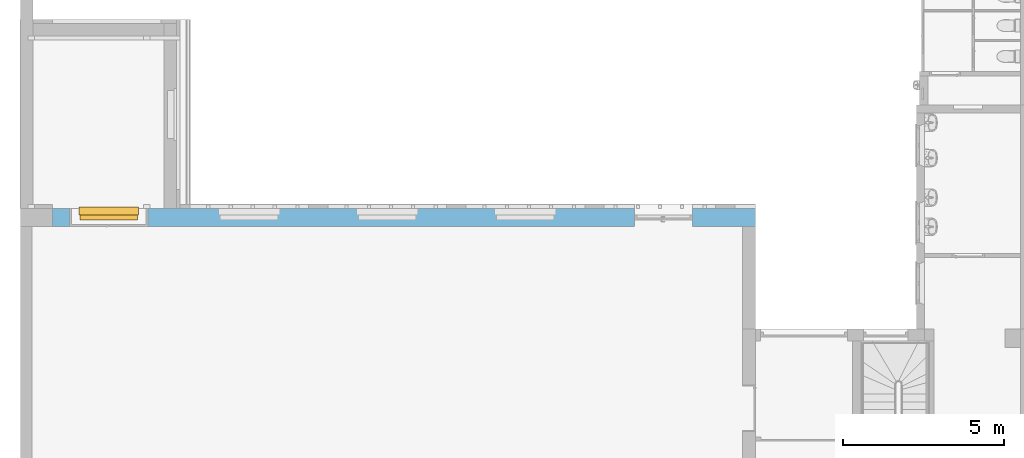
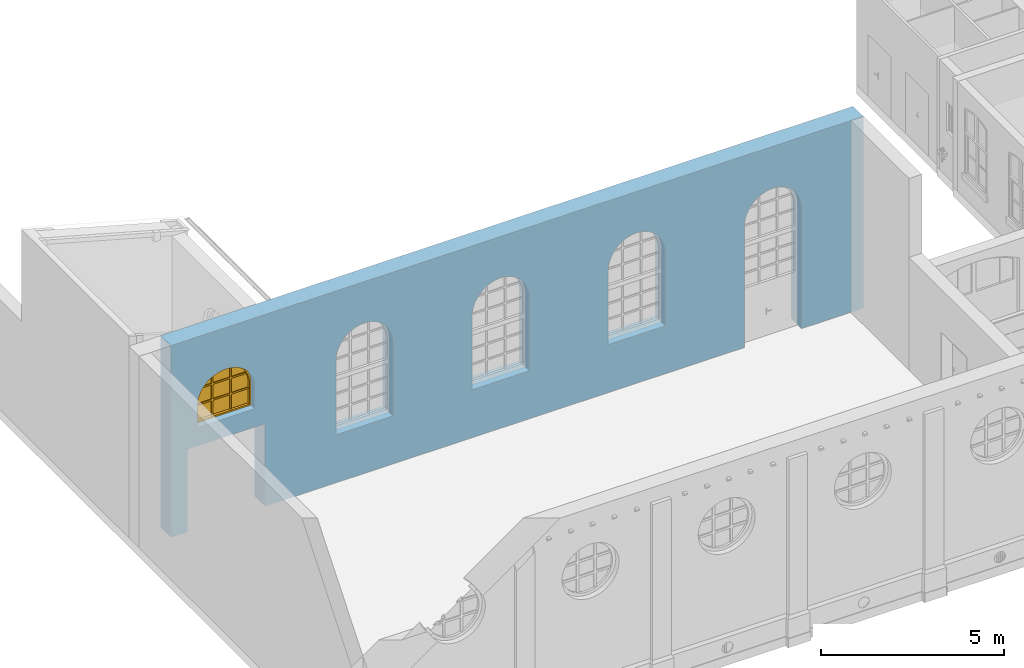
"""IFC4 building model written with IfcOpenShell, lengths in metres."""

from ifc_helpers import new_model, entity, si_unit, converted_unit, derived_unit, frame, frame_2d, origin, origin_with_axes, place, context, subcontext, project, spatial, polyline, rectangle, outline, extrude, closed_shell, open_shell, surface_model, source, transform, mapped, material, layer, layer_set, layer_usage, element, fill, save


model = new_model("IFC4")

# Units and contexts
model_context = context("Model", 3, precision=1e-05, world=origin())
body_context = subcontext(model_context, "Body", "Model", "MODEL_VIEW")
ifc_project = project(units=[si_unit("LENGTHUNIT", "METRE"), si_unit("AREAUNIT", "SQUARE_METRE"), si_unit("VOLUMEUNIT", "CUBIC_METRE"), si_unit("MASSUNIT", "GRAM", prefix="KILO"), converted_unit("PLANEANGLEUNIT", "DEGREE", entity("IfcPlaneAngleMeasure", 0.0174532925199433), si_unit("PLANEANGLEUNIT", "RADIAN"), dimensions=[0, 0, 0, 0, 0, 0, 0]), derived_unit("THERMALTRANSMITTANCEUNIT", [(si_unit("POWERUNIT", "WATT"), 1), (si_unit("THERMODYNAMICTEMPERATUREUNIT", "KELVIN"), -1), (si_unit("LENGTHUNIT", "METRE"), -2)]), derived_unit("VOLUMETRICFLOWRATEUNIT", [(si_unit("LENGTHUNIT", "METRE"), 3), (converted_unit("TIMEUNIT", "hour", entity("IfcTimeMeasure", 3600.0), si_unit("TIMEUNIT", "SECOND"), dimensions=[0, 0, 1, 0, 0, 0, 0]), -1), (si_unit("LENGTHUNIT", "METRE"), -1)])], contexts=[model_context])

# Building, storeys
building_placement = place(None, origin())
building = spatial("IfcBuilding", under=ifc_project, at=building_placement, Name="Bestandsgebäude A - Sporthalle / Wohnhaus (TB 100-499)   ANPASSEN !!!", CompositionType="ELEMENT")
storey_1_placement = place(building_placement, origin())
storey_1 = spatial("IfcBuildingStorey", under=building, at=storey_1_placement, Name="Geb. A Erdgeschoss (TB 200-249)", CompositionType="ELEMENT", Elevation=0.0)
storey_2_placement = place(storey_1_placement, origin())
storey_2 = spatial("IfcBuildingStorey", under=storey_1, at=storey_2_placement, Name="Architektur (TB 200-209)", CompositionType="PARTIAL")

# Wall, openings, window
ifc_material = material(Name="concrete")
ifc_layer = layer(ifc_material, 0.56)
ifc_layer_set = layer_set([ifc_layer])
ifc_layer_usage = layer_usage(ifc_layer_set, "AXIS2", "POSITIVE", 0.0)
wall_placement = place(storey_2_placement, frame((-8.5, 13.0, 0.0), z_axis=(0.0, 0.0, 1.0), x_axis=(-1.0, 1.66345624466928e-16, 0.0)))
wall = element("IfcWall", 1, at=wall_placement, inside=storey_2, material=ifc_layer_usage, Name="reinforced - bearing", PredefinedType="USERDEFINED", context=body_context, shape_type="SweptSolid", body=[
    extrude(rectangle(XDim=21.87, YDim=0.56, at=frame_2d((10.935, 0.28), x_axis=(1.0, 0.0))), origin_with_axes(), (0.0, 0.0, 1.0), 6.4),
])
opening_1_placement = place(wall_placement, frame((1.95999999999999, 0.0, 0.0), z_axis=(0.0, 1.0, 0.0), x_axis=(0.0, 0.0, 1.0)))
element("IfcOpeningElement", 2, at=opening_1_placement, cuts=wall, Name="Door opening", PredefinedType="OPENING", context=body_context, shape_type="SweptSolid", body=[
    extrude(outline(polyline([(4.03999999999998, 1.8), (4.1403473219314, 1.79506970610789), (4.23959521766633, 1.78033284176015), (4.33665630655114, 1.7559508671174), (4.4304671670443, 1.72219091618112), (4.51999998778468, 1.67942287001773), (4.60427382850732, 1.62811530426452), (4.68236536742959, 1.56883035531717), (4.75341901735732, 1.5022175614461), (4.81665629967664, 1.42900674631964), (4.87138437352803, 1.35000002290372), (4.91700362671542, 1.26606300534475), (4.95301424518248, 1.17811532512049), (4.97902168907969, 1.08712055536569), (4.99474101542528, 0.994075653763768), (5.0, 0.900000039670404), (4.99474102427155, 0.805924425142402), (4.9790217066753, 0.71287952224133), (4.95301427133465, 0.621884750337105), (4.91700366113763, 0.533937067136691), (4.87138441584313, 0.450000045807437), (4.81665634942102, 0.370993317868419), (4.75341907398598, 0.297782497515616), (4.68236543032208, 0.231169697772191), (4.60427389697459, 0.171884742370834), (4.52000006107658, 0.120577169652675), (4.43046724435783, 0.0778091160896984), (4.33665638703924, 0.0440491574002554), (4.23959530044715, 0.0196671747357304), (4.14034740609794, 0.00493030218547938), (4.04000008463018, 0.0), (0.0, 0.0), (0.0, 1.8), (4.03999999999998, 1.8)])), origin_with_axes(), (0.0, 0.0, 1.0), 0.56),
])
opening_2_placement = place(wall_placement, frame((6.26357142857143, 0.0, 1.6), z_axis=(0.0, 1.0, 0.0), x_axis=(0.0, 0.0, 1.0)))
element("IfcOpeningElement", 3, at=opening_2_placement, cuts=wall, Name="Window opening", PredefinedType="OPENING", context=body_context, shape_type="SweptSolid", body=[
    extrude(outline(polyline([(2.46000001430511, 1.7964285), (2.56034733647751, 1.79150798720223), (2.65959523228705, 1.77680036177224), (2.75665632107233, 1.75246676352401), (2.8504671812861, 1.71877379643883), (2.94000000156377, 1.67609060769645), (3.02427384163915, 1.62488484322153), (3.10236537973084, 1.56571752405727), (3.17341902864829, 1.49923689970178), (3.23665630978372, 1.42617134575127), (3.29138438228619, 1.34732138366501), (3.33700363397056, 1.2635509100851), (3.37301425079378, 1.17577773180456), (3.39902169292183, 1.08496351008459), (3.41474101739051, 0.992103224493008), (3.42, 0.898214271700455), (3.4147410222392, 0.804325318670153), (3.39902170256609, 0.711465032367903), (3.37301426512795, 0.620650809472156), (3.33700365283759, 0.532877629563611), (3.29138440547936, 0.449107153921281), (3.23665633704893, 0.370257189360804), (3.17341905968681, 0.297191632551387), (3.10236541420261, 0.230711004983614), (3.0242738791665, 0.17154368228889), (2.94000004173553, 0.120337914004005), (2.85046722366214, 0.0776547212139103), (2.75665636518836, 0.0439617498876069), (2.65959527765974, 0.0196281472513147), (2.56034738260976, 0.00492051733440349), (2.46000006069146, 0.0), (0.0, 0.0), (0.0, 1.7964285), (2.46000001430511, 1.7964285)])), origin_with_axes(), (0.0, 0.0, 1.0), 0.56),
])
opening_3_placement = place(wall_placement, frame((10.56, 0.0, 1.6), z_axis=(0.0, 1.0, 0.0), x_axis=(0.0, 0.0, 1.0)))
element("IfcOpeningElement", 4, at=opening_3_placement, cuts=wall, Name="Window opening", PredefinedType="OPENING", context=body_context, shape_type="SweptSolid", body=[
    extrude(outline(polyline([(2.46000001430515, 1.7964285), (2.56034733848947, 1.79150798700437), (2.65959523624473, 1.77680036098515), (2.75665632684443, 1.75246676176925), (2.85046718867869, 1.71877379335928), (2.94000001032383, 1.67609060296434), (3.02427385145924, 1.62488483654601), (3.10236539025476, 1.56571751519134), (3.17341903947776, 1.49923688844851), (3.23665632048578, 1.42617133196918), (3.29138439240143, 1.3473213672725), (3.33700364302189, 1.2635508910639), (3.37301425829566, 1.17577771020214), (3.39902169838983, 1.08496348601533), (3.41474102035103, 0.992103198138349), (3.42, 0.898214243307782), (3.41474101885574, 0.804325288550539), (3.39902169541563, 0.711465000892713), (3.37301425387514, 0.620650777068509), (3.33700363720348, 0.532877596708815), (3.29138438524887, 0.449107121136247), (3.23665631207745, 0.370257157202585), (3.17341902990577, 0.297191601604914), (3.10236537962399, 0.230710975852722), (3.02427383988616, 0.171543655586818), (2.93999999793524, 0.120337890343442), (2.85046717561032, 0.077654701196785), (2.75665631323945, 0.0439617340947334), (2.6595952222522, 0.0196281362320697), (2.56034732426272, 0.00492051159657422), (2.46, 0.0), (0.0, 0.0), (0.0, 1.7964285), (2.46000001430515, 1.7964285)])), origin_with_axes(), (0.0, 0.0, 1.0), 0.56),
])
opening_4_placement = place(wall_placement, frame((14.86, 0.0, 1.6), z_axis=(0.0, 1.0, 0.0), x_axis=(0.0, 0.0, 1.0)))
element("IfcOpeningElement", 5, at=opening_4_placement, cuts=wall, Name="Window opening", PredefinedType="OPENING", context=body_context, shape_type="SweptSolid", body=[
    extrude(outline(polyline([(2.46000001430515, 1.7964285), (2.56034733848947, 1.79150798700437), (2.65959523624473, 1.77680036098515), (2.75665632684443, 1.75246676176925), (2.85046718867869, 1.71877379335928), (2.94000001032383, 1.67609060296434), (3.02427385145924, 1.62488483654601), (3.10236539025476, 1.56571751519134), (3.17341903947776, 1.49923688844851), (3.23665632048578, 1.42617133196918), (3.29138439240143, 1.3473213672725), (3.3370036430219, 1.2635508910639), (3.37301425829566, 1.17577771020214), (3.39902169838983, 1.08496348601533), (3.41474102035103, 0.992103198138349), (3.42, 0.898214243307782), (3.41474101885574, 0.804325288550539), (3.39902169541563, 0.711465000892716), (3.37301425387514, 0.620650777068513), (3.33700363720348, 0.532877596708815), (3.29138438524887, 0.449107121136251), (3.23665631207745, 0.370257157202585), (3.17341902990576, 0.297191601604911), (3.10236537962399, 0.230710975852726), (3.02427383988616, 0.171543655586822), (2.93999999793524, 0.120337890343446), (2.85046717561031, 0.077654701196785), (2.75665631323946, 0.0439617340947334), (2.6595952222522, 0.0196281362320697), (2.56034732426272, 0.00492051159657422), (2.46, 0.0), (0.0, 0.0), (0.0, 1.7964285), (2.46000001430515, 1.7964285)])), origin_with_axes(), (0.0, 0.0, 1.0), 0.560000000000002),
])
opening_5_placement = place(wall_placement, frame((19.225, 0.0, 3.37), z_axis=(0.0, 1.0, 0.0), x_axis=(0.0, 0.0, 1.0)))
opening_5 = element("IfcOpeningElement", 6, at=opening_5_placement, cuts=wall, Name="Window opening", PredefinedType="OPENING", context=body_context, shape_type="SweptSolid", body=[
    extrude(outline(polyline([(0.850000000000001, 1.8), (0.936562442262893, 1.78550122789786), (1.02131640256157, 1.762696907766), (1.10346693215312, 1.73180093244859), (1.18224350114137, 1.69310309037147), (1.25690722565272, 1.64696634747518), (1.32675779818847, 1.59382344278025), (1.39114005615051, 1.53417282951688), (1.44945012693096, 1.46857399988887), (1.501141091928, 1.39764223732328), (1.54572811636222, 1.32204284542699), (1.58279299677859, 1.2424849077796), (1.61198808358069, 1.15971463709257), (1.63303954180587, 1.07450837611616), (1.64574991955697, 0.98766531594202), (1.65, 0.9), (1.64574991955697, 0.81233468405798), (1.63303954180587, 0.725491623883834), (1.61198808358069, 0.640285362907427), (1.58279299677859, 0.557515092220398), (1.54572811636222, 0.47795715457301), (1.501141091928, 0.402357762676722), (1.44945012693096, 0.331426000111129), (1.3911400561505, 0.265827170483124), (1.32675779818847, 0.206176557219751), (1.25690722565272, 0.153033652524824), (1.18224350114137, 0.106896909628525), (1.10346693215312, 0.0681990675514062), (1.02131640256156, 0.0373030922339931), (0.936562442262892, 0.0144987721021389), (0.85, 0.0), (0.0, 0.0), (0.0, 1.8), (0.850000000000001, 1.8)])), origin_with_axes(), (0.0, 0.0, 1.0), 0.56),
])
opening_6_placement = place(wall_placement, frame((21.35, 0.56, 0.0), z_axis=(0.0, -1.0, 0.0), x_axis=(0.0, 0.0, 1.0)))
element("IfcOpeningElement", 7, at=opening_6_placement, cuts=wall, Name="Door opening", PredefinedType="OPENING", context=body_context, shape_type="SweptSolid", body=[
    extrude(outline(polyline([(2.76, 2.45), (2.76, 0.0), (0.0, 0.0), (0.0, 2.45), (2.76, 2.45)])), origin_with_axes(), (0.0, 0.0, 1.0), 0.56),
])
shared_shape = source(origin_with_axes(), body_context, "Body", "SurfaceModel", [
    surface_model("IfcShellBasedSurfaceModel", [(1.82, 0.41, -0.15), (1.82, 0.16, -0.15), (1.82, 0.16, 0.05), (1.82, 0.41, 0.05), (-0.02, 0.16, -0.15), (-0.02, 0.41, -0.15), (-0.02, 0.41, 0.05), (-0.02, 0.16, 0.05)], [closed_shell([[[0, 1, 2, 3]], [[4, 5, 6, 7]], [[1, 0, 5, 4]], [[2, 1, 4, 7]], [[3, 2, 7, 6]], [[0, 3, 6, 5]]], orient=[[False], [False], [False], [False], [False], [False]])]),
    surface_model("IfcShellBasedSurfaceModel", [(1.78550122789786, 0.0, 0.936562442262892), (1.8, 0.0, 0.85), (1.8, 0.0, 0.0), (0.0, 0.0, 0.0), (0.0, 0.0, 0.85), (0.0144987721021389, 0.0, 0.936562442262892), (0.0373030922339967, 0.0, 1.02131640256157), (0.0681990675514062, 0.0, 1.10346693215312), (0.106896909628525, 0.0, 1.18224350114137), (0.153033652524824, 0.0, 1.25690722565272), (0.206176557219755, 0.0, 1.32675779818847), (0.26582717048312, 0.0, 1.39114005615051), (0.331426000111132, 0.0, 1.44945012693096), (0.402357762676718, 0.0, 1.501141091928), (0.47795715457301, 0.0, 1.54572811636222), (0.557515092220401, 0.0, 1.58279299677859), (0.640285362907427, 0.0, 1.61198808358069), (0.725491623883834, 0.0, 1.63303954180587), (0.81233468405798, 0.0, 1.64574991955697), (0.9, 0.0, 1.65), (0.987665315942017, 0.0, 1.64574991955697), (1.07450837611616, 0.0, 1.63303954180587), (1.15971463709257, 0.0, 1.61198808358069), (1.2424849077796, 0.0, 1.58279299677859), (1.32204284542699, 0.0, 1.54572811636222), (1.39764223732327, 0.0, 1.501141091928), (1.46857399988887, 0.0, 1.44945012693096), (1.53417282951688, 0.0, 1.39114005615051), (1.59382344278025, 0.0, 1.32675779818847), (1.64696634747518, 0.0, 1.25690722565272), (1.69310309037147, 0.0, 1.18224350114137), (1.7318009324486, 0.0, 1.10346693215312), (1.762696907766, 0.0, 1.02131640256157), (1.75, 0.0, 0.845841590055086), (1.73658860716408, 0.0, 0.925912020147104), (1.71504393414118, 0.0, 1.00598440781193), (1.68585456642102, 0.0, 1.08359717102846), (1.64929428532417, 0.0, 1.15802234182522), (1.60570600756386, 0.0, 1.2285618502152), (1.55549856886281, 0.0, 1.29455407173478), (1.49914288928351, 0.0, 1.35538003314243), (1.43716755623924, 0.0, 1.41046921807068), (1.37015386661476, 0.0, 1.45930491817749), (1.29873037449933, 0.0, 1.50142907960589), (1.22356699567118, 0.0, 1.53644659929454), (1.14536872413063, 0.0, 1.56402903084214), (1.06486901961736, 0.0, 1.58391766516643), (0.982822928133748, 0.0, 1.59592595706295), (0.9, 0.0, 1.59994127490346), (0.817177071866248, 0.0, 1.59592595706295), (0.735130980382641, 0.0, 1.58391766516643), (0.654631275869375, 0.0, 1.56402903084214), (0.576433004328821, 0.0, 1.53644659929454), (0.50126962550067, 0.0, 1.50142907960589), (0.429846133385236, 0.0, 1.45930491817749), (0.362832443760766, 0.0, 1.41046921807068), (0.300857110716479, 0.0, 1.35538003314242), (0.244501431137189, 0.0, 1.29455407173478), (0.194293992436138, 0.0, 1.2285618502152), (0.150705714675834, 0.0, 1.15802234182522), (0.114145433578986, 0.0, 1.08359717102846), (0.0849560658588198, 0.0, 1.00598440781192), (0.063411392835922, 0.0, 0.925912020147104), (0.05, 0.0, 0.845841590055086), (0.05, 0.0, 0.05), (1.75, 0.0, 0.05), (1.8, 0.16, 0.85), (1.78550122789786, 0.16, 0.936562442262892), (1.762696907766, 0.16, 1.02131640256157), (1.7318009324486, 0.16, 1.10346693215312), (1.69310309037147, 0.16, 1.18224350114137), (1.64696634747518, 0.16, 1.25690722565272), (1.59382344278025, 0.16, 1.32675779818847), (1.53417282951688, 0.16, 1.39114005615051), (1.46857399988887, 0.16, 1.44945012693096), (1.39764223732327, 0.16, 1.501141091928), (1.32204284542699, 0.16, 1.54572811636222), (1.2424849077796, 0.16, 1.58279299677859), (1.15971463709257, 0.16, 1.61198808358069), (1.07450837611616, 0.16, 1.63303954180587), (0.987665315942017, 0.16, 1.64574991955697), (0.9, 0.16, 1.65), (0.81233468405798, 0.16, 1.64574991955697), (0.725491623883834, 0.16, 1.63303954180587), (0.640285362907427, 0.16, 1.61198808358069), (0.557515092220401, 0.16, 1.58279299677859), (0.47795715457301, 0.16, 1.54572811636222), (0.402357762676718, 0.16, 1.501141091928), (0.331426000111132, 0.16, 1.44945012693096), (0.26582717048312, 0.16, 1.39114005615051), (0.206176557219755, 0.16, 1.32675779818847), (0.153033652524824, 0.16, 1.25690722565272), (0.106896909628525, 0.16, 1.18224350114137), (0.0681990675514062, 0.16, 1.10346693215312), (0.0373030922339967, 0.16, 1.02131640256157), (0.0144987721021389, 0.16, 0.936562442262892), (0.0, 0.16, 0.85), (0.0, 0.16, 0.0), (1.8, 0.16, 0.0), (1.73658860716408, 0.16, 0.925912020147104), (1.75, 0.16, 0.845841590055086), (1.75, 0.16, 0.05), (0.05, 0.16, 0.05), (0.05, 0.16, 0.845841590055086), (0.063411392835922, 0.16, 0.925912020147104), (0.0849560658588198, 0.16, 1.00598440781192), (0.114145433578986, 0.16, 1.08359717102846), (0.150705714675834, 0.16, 1.15802234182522), (0.194293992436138, 0.16, 1.2285618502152), (0.244501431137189, 0.16, 1.29455407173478), (0.300857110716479, 0.16, 1.35538003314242), (0.362832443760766, 0.16, 1.41046921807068), (0.429846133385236, 0.16, 1.45930491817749), (0.50126962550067, 0.16, 1.50142907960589), (0.576433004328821, 0.16, 1.53644659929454), (0.654631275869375, 0.16, 1.56402903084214), (0.735130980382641, 0.16, 1.58391766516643), (0.817177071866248, 0.16, 1.59592595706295), (0.9, 0.16, 1.59994127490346), (0.982822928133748, 0.16, 1.59592595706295), (1.06486901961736, 0.16, 1.58391766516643), (1.14536872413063, 0.16, 1.56402903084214), (1.22356699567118, 0.16, 1.53644659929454), (1.29873037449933, 0.16, 1.50142907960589), (1.37015386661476, 0.16, 1.45930491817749), (1.43716755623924, 0.16, 1.41046921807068), (1.49914288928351, 0.16, 1.35538003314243), (1.55549856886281, 0.16, 1.29455407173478), (1.60570600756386, 0.16, 1.2285618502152), (1.64929428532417, 0.16, 1.15802234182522), (1.68585456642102, 0.16, 1.08359717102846), (1.71504393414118, 0.16, 1.00598440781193)], [closed_shell([[[0, 1, 2, 3, 4, 5, 6, 7, 8, 9, 10, 11, 12, 13, 14, 15, 16, 17, 18, 19, 20, 21, 22, 23, 24, 25, 26, 27, 28, 29, 30, 31, 32], [33, 34, 35, 36, 37, 38, 39, 40, 41, 42, 43, 44, 45, 46, 47, 48, 49, 50, 51, 52, 53, 54, 55, 56, 57, 58, 59, 60, 61, 62, 63, 64, 65]], [[66, 67, 68, 69, 70, 71, 72, 73, 74, 75, 76, 77, 78, 79, 80, 81, 82, 83, 84, 85, 86, 87, 88, 89, 90, 91, 92, 93, 94, 95, 96, 97, 98], [99, 100, 101, 102, 103, 104, 105, 106, 107, 108, 109, 110, 111, 112, 113, 114, 115, 116, 117, 118, 119, 120, 121, 122, 123, 124, 125, 126, 127, 128, 129, 130, 131]], [[1, 0, 67, 66]], [[2, 1, 66, 98]], [[3, 2, 98, 97]], [[4, 3, 97, 96]], [[5, 4, 96, 95]], [[6, 5, 95, 94]], [[7, 6, 94, 93]], [[8, 7, 93, 92]], [[9, 8, 92, 91]], [[10, 9, 91, 90]], [[11, 10, 90, 89]], [[12, 11, 89, 88]], [[13, 12, 88, 87]], [[14, 13, 87, 86]], [[15, 14, 86, 85]], [[16, 15, 85, 84]], [[17, 16, 84, 83]], [[18, 17, 83, 82]], [[19, 18, 82, 81]], [[20, 19, 81, 80]], [[21, 20, 80, 79]], [[22, 21, 79, 78]], [[23, 22, 78, 77]], [[24, 23, 77, 76]], [[25, 24, 76, 75]], [[26, 25, 75, 74]], [[27, 26, 74, 73]], [[28, 27, 73, 72]], [[29, 28, 72, 71]], [[30, 29, 71, 70]], [[31, 30, 70, 69]], [[32, 31, 69, 68]], [[0, 32, 68, 67]], [[33, 100, 99, 34]], [[65, 101, 100, 33]], [[64, 102, 101, 65]], [[63, 103, 102, 64]], [[62, 104, 103, 63]], [[61, 105, 104, 62]], [[60, 106, 105, 61]], [[59, 107, 106, 60]], [[58, 108, 107, 59]], [[57, 109, 108, 58]], [[56, 110, 109, 57]], [[55, 111, 110, 56]], [[54, 112, 111, 55]], [[53, 113, 112, 54]], [[52, 114, 113, 53]], [[51, 115, 114, 52]], [[50, 116, 115, 51]], [[49, 117, 116, 50]], [[48, 118, 117, 49]], [[47, 119, 118, 48]], [[46, 120, 119, 47]], [[45, 121, 120, 46]], [[44, 122, 121, 45]], [[43, 123, 122, 44]], [[42, 124, 123, 43]], [[41, 125, 124, 42]], [[40, 126, 125, 41]], [[39, 127, 126, 40]], [[38, 128, 127, 39]], [[37, 129, 128, 38]], [[36, 130, 129, 37]], [[35, 131, 130, 36]], [[34, 99, 131, 35]]], orient=[[False, False], [False, False], [False], [False], [False], [False], [False], [False], [False], [False], [False], [False], [False], [False], [False], [False], [False], [False], [False], [False], [False], [False], [False], [False], [False], [False], [False], [False], [False], [False], [False], [False], [False], [False], [False], [False], [False], [False], [False], [False], [False], [False], [False], [False], [False], [False], [False], [False], [False], [False], [False], [False], [False], [False], [False], [False], [False], [False], [False], [False], [False], [False], [False], [False], [False], [False], [False], [False]])]),
    surface_model("IfcShellBasedSurfaceModel", [(1.21666666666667, 0.055, 1.5388805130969), (1.21666666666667, 0.055, 0.05), (1.16666666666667, 0.055, 0.05), (1.16666666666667, 0.055, 1.55651672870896), (1.21666666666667, 0.105, 0.05), (1.21666666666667, 0.105, 1.5388805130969), (1.16666666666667, 0.105, 1.55651672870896), (1.16666666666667, 0.105, 0.05)], [closed_shell([[[0, 1, 2, 3]], [[4, 5, 6, 7]], [[1, 0, 5, 4]], [[2, 1, 4, 7]], [[3, 2, 7, 6]], [[0, 3, 6, 5]]], orient=[[False], [False], [False], [False], [False], [False]])]),
    surface_model("IfcShellBasedSurfaceModel", [(0.633333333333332, 0.055, 1.55651672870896), (0.633333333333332, 0.055, 0.05), (0.583333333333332, 0.055, 0.05), (0.583333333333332, 0.055, 1.5388805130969), (0.633333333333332, 0.105, 0.05), (0.633333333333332, 0.105, 1.55651672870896), (0.583333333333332, 0.105, 1.5388805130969), (0.583333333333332, 0.105, 0.05)], [closed_shell([[[0, 1, 2, 3]], [[4, 5, 6, 7]], [[1, 0, 5, 4]], [[2, 1, 4, 7]], [[3, 2, 7, 6]], [[0, 3, 6, 5]]], orient=[[False], [False], [False], [False], [False], [False]])]),
    surface_model("IfcShellBasedSurfaceModel", [(1.75, 0.055, 0.583624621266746), (1.75, 0.055, 0.533624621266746), (1.21666666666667, 0.055, 0.533624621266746), (1.21666666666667, 0.055, 0.583624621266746), (1.75, 0.105, 0.533624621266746), (1.75, 0.105, 0.583624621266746), (1.21666666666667, 0.105, 0.583624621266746), (1.21666666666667, 0.105, 0.533624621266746)], [closed_shell([[[0, 1, 2, 3]], [[4, 5, 6, 7]], [[1, 0, 5, 4]], [[2, 1, 4, 7]], [[3, 2, 7, 6]], [[0, 3, 6, 5]]], orient=[[False], [False], [False], [False], [False], [False]])]),
    surface_model("IfcShellBasedSurfaceModel", [(1.69235359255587, 0.055, 1.06631665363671), (1.21666666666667, 0.055, 1.06631665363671), (1.21666666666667, 0.055, 1.11631665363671), (1.66978159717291, 0.055, 1.11631665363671), (1.68585456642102, 0.055, 1.08359717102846), (1.66978159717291, 0.105, 1.11631665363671), (1.21666666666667, 0.105, 1.11631665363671), (1.21666666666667, 0.105, 1.06631665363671), (1.69235359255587, 0.105, 1.06631665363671), (1.68585456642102, 0.105, 1.08359717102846)], [closed_shell([[[0, 1, 2, 3, 4]], [[5, 6, 7, 8, 9]], [[1, 0, 8, 7]], [[2, 1, 7, 6]], [[3, 2, 6, 5]], [[4, 3, 5, 9]], [[0, 4, 9, 8]]], orient=[[False], [False], [False], [False], [False], [False], [False]])]),
    surface_model("IfcShellBasedSurfaceModel", [(1.16666666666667, 0.055, 0.583624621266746), (1.16666666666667, 0.055, 0.533624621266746), (0.633333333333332, 0.055, 0.533624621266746), (0.633333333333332, 0.055, 0.583624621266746), (1.16666666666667, 0.105, 0.533624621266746), (1.16666666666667, 0.105, 0.583624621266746), (0.633333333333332, 0.105, 0.583624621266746), (0.633333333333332, 0.105, 0.533624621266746)], [closed_shell([[[0, 1, 2, 3]], [[4, 5, 6, 7]], [[1, 0, 5, 4]], [[2, 1, 4, 7]], [[3, 2, 7, 6]], [[0, 3, 6, 5]]], orient=[[False], [False], [False], [False], [False], [False]])]),
    surface_model("IfcShellBasedSurfaceModel", [(1.16666666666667, 0.055, 1.11631665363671), (1.16666666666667, 0.055, 1.06631665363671), (0.633333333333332, 0.055, 1.06631665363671), (0.633333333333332, 0.055, 1.11631665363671), (1.16666666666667, 0.105, 1.06631665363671), (1.16666666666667, 0.105, 1.11631665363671), (0.633333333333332, 0.105, 1.11631665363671), (0.633333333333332, 0.105, 1.06631665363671)], [closed_shell([[[0, 1, 2, 3]], [[4, 5, 6, 7]], [[1, 0, 5, 4]], [[2, 1, 4, 7]], [[3, 2, 7, 6]], [[0, 3, 6, 5]]], orient=[[False], [False], [False], [False], [False], [False]])]),
    surface_model("IfcShellBasedSurfaceModel", [(0.583333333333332, 0.055, 0.583624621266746), (0.583333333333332, 0.055, 0.533624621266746), (0.05, 0.055, 0.533624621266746), (0.05, 0.055, 0.583624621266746), (0.583333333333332, 0.105, 0.533624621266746), (0.583333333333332, 0.105, 0.583624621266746), (0.05, 0.105, 0.583624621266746), (0.05, 0.105, 0.533624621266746)], [closed_shell([[[0, 1, 2, 3]], [[4, 5, 6, 7]], [[1, 0, 5, 4]], [[2, 1, 4, 7]], [[3, 2, 7, 6]], [[0, 3, 6, 5]]], orient=[[False], [False], [False], [False], [False], [False]])]),
    surface_model("IfcShellBasedSurfaceModel", [(0.583333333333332, 0.055, 1.11631665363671), (0.583333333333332, 0.055, 1.06631665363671), (0.107646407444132, 0.055, 1.06631665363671), (0.114145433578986, 0.055, 1.08359717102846), (0.130218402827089, 0.055, 1.11631665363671), (0.583333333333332, 0.105, 1.06631665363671), (0.583333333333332, 0.105, 1.11631665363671), (0.130218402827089, 0.105, 1.11631665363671), (0.114145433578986, 0.105, 1.08359717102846), (0.107646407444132, 0.105, 1.06631665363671)], [closed_shell([[[0, 1, 2, 3, 4]], [[5, 6, 7, 8, 9]], [[1, 0, 6, 5]], [[2, 1, 5, 9]], [[0, 4, 7, 6]], [[3, 2, 9, 8]], [[4, 3, 8, 7]]], orient=[[False], [False], [False], [False], [False], [False], [False]])]),
    surface_model("IfcShellBasedSurfaceModel", [(1.75, 0.08, 0.533624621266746), (1.75, 0.08, 0.05), (1.21666666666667, 0.08, 0.05), (1.21666666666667, 0.08, 0.533624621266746)], [open_shell([[[0, 1, 2, 3]]], orient=[[False]])]),
    surface_model("IfcShellBasedSurfaceModel", [(1.73658860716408, 0.08, 0.925912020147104), (1.75, 0.08, 0.845841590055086), (1.75, 0.08, 0.583624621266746), (1.21666666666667, 0.08, 0.583624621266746), (1.21666666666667, 0.08, 1.06631665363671), (1.69235359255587, 0.08, 1.06631665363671), (1.71504393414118, 0.08, 1.00598440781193)], [open_shell([[[0, 1, 2, 3, 4, 5, 6]]], orient=[[False]])]),
    surface_model("IfcShellBasedSurfaceModel", [(1.64929428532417, 0.08, 1.15802234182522), (1.66978159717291, 0.08, 1.11631665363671), (1.21666666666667, 0.08, 1.11631665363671), (1.21666666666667, 0.08, 1.5388805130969), (1.22356699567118, 0.08, 1.53644659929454), (1.29873037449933, 0.08, 1.50142907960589), (1.37015386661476, 0.08, 1.45930491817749), (1.43716755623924, 0.08, 1.41046921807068), (1.49914288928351, 0.08, 1.35538003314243), (1.55549856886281, 0.08, 1.29455407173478), (1.60570600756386, 0.08, 1.2285618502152)], [open_shell([[[0, 1, 2, 3, 4, 5, 6, 7, 8, 9, 10]]], orient=[[False]])]),
    surface_model("IfcShellBasedSurfaceModel", [(1.16666666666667, 0.08, 0.533624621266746), (1.16666666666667, 0.08, 0.05), (0.633333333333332, 0.08, 0.05), (0.633333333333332, 0.08, 0.533624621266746)], [open_shell([[[0, 1, 2, 3]]], orient=[[False]])]),
    surface_model("IfcShellBasedSurfaceModel", [(1.16666666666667, 0.08, 1.06631665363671), (1.16666666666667, 0.08, 0.583624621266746), (0.633333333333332, 0.08, 0.583624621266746), (0.633333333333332, 0.08, 1.06631665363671)], [open_shell([[[0, 1, 2, 3]]], orient=[[False]])]),
    surface_model("IfcShellBasedSurfaceModel", [(1.14536872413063, 0.08, 1.56402903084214), (1.16666666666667, 0.08, 1.55651672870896), (1.16666666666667, 0.08, 1.11631665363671), (0.633333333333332, 0.08, 1.11631665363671), (0.633333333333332, 0.08, 1.55651672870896), (0.654631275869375, 0.08, 1.56402903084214), (0.735130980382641, 0.08, 1.58391766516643), (0.817177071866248, 0.08, 1.59592595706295), (0.9, 0.08, 1.59994127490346), (0.982822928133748, 0.08, 1.59592595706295), (1.06486901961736, 0.08, 1.58391766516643)], [open_shell([[[0, 1, 2, 3, 4, 5, 6, 7, 8, 9, 10]]], orient=[[False]])]),
    surface_model("IfcShellBasedSurfaceModel", [(0.583333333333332, 0.08, 0.533624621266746), (0.583333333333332, 0.08, 0.05), (0.05, 0.08, 0.05), (0.05, 0.08, 0.533624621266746)], [open_shell([[[0, 1, 2, 3]]], orient=[[False]])]),
    surface_model("IfcShellBasedSurfaceModel", [(0.583333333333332, 0.08, 1.06631665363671), (0.583333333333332, 0.08, 0.583624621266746), (0.05, 0.08, 0.583624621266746), (0.05, 0.08, 0.845841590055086), (0.063411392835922, 0.08, 0.925912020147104), (0.0849560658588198, 0.08, 1.00598440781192), (0.107646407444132, 0.08, 1.06631665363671)], [open_shell([[[0, 1, 2, 3, 4, 5, 6]]], orient=[[False]])]),
    surface_model("IfcShellBasedSurfaceModel", [(0.576433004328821, 0.08, 1.53644659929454), (0.583333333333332, 0.08, 1.5388805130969), (0.583333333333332, 0.08, 1.11631665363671), (0.130218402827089, 0.08, 1.11631665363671), (0.150705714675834, 0.08, 1.15802234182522), (0.194293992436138, 0.08, 1.2285618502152), (0.244501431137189, 0.08, 1.29455407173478), (0.300857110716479, 0.08, 1.35538003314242), (0.362832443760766, 0.08, 1.41046921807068), (0.429846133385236, 0.08, 1.45930491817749), (0.50126962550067, 0.08, 1.50142907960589)], [open_shell([[[0, 1, 2, 3, 4, 5, 6, 7, 8, 9, 10]]], orient=[[False]])]),
])
window_placement = place(opening_5_placement, frame((0.0, 1.8, 0.36), z_axis=(1.0, 0.0, 0.0), x_axis=(0.0, -1.0, -1.66345624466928e-16)))
window = element("IfcWindow", 8, at=window_placement, inside=storey_2, Name="Window", OverallHeight=1.65, OverallWidth=1.8, PartitioningType="USERDEFINED", PredefinedType="WINDOW", context=body_context, shape_type="MappedRepresentation", body=[
    mapped(shared_shape, transform((0.0, 0.0, 0.0), x_axis=(1.0, 0.0, 0.0), y_axis=(0.0, 1.0, 0.0), z_axis=(0.0, 0.0, 1.0), scale=1.0)),
])
fill(opening_5, window)

save(model, "model.ifc")
